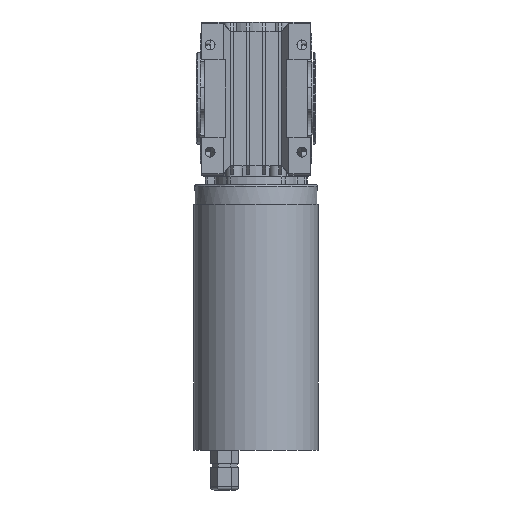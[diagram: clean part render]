
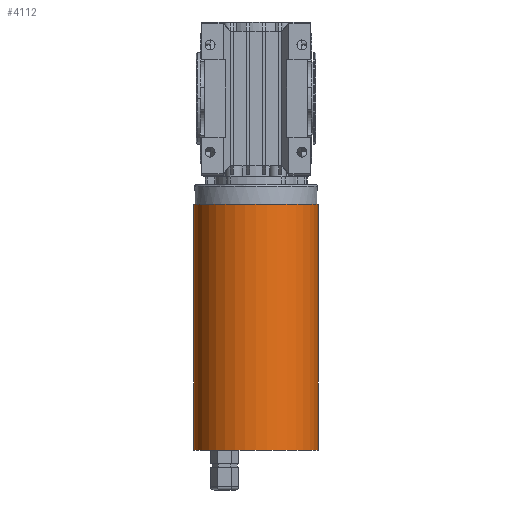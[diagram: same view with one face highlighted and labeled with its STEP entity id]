
A CAD part, front view. The second image highlights one B-rep face of the part: STEP entity #4112.
In plain terms, the highlighted cylindrical face has radius 40.5 mm (diameter 81 mm), a partial arc.
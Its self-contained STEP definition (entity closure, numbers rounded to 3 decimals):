
#1393 = CARTESIAN_POINT ( 'NONE',  ( 40.5, 0., 0. ) ) ;
#1709 = DIRECTION ( 'NONE',  ( 1., 0., 0. ) ) ;
#3196 = EDGE_LOOP ( 'NONE', ( #21421, #19789, #32563, #12948 ) ) ;
#4112 = ADVANCED_FACE ( 'NONE', ( #39095 ), #29452, .T. ) ;
#4191 = VERTEX_POINT ( 'NONE', #12370 ) ;
#4504 = LINE ( 'NONE', #16814, #31994 ) ;
#6363 = CARTESIAN_POINT ( 'NONE',  ( -40.5, 0., 0. ) ) ;
#8185 = CARTESIAN_POINT ( 'NONE',  ( 0., 0., 0. ) ) ;
#8300 = CARTESIAN_POINT ( 'NONE',  ( 0., 0., -160.5 ) ) ;
#10071 = EDGE_CURVE ( 'NONE', #15201, #29137, #35447, .T. ) ;
#11168 = DIRECTION ( 'NONE',  ( 0., 0., -1. ) ) ;
#12370 = CARTESIAN_POINT ( 'NONE',  ( -40.5, 0., 0. ) ) ;
#12948 = ORIENTED_EDGE ( 'NONE', *, *, #10071, .T. ) ;
#13900 = CIRCLE ( 'NONE', #25019, 40.5 ) ;
#14567 = VECTOR ( 'NONE', #27933, 1000. ) ;
#15201 = VERTEX_POINT ( 'NONE', #23692 ) ;
#15775 = EDGE_CURVE ( 'NONE', #18357, #15201, #4504, .T. ) ;
#16814 = CARTESIAN_POINT ( 'NONE',  ( 40.5, 0., 0. ) ) ;
#17328 = CARTESIAN_POINT ( 'NONE',  ( 0., 0., 0. ) ) ;
#17765 = DIRECTION ( 'NONE',  ( 0., 0., 1. ) ) ;
#18284 = AXIS2_PLACEMENT_3D ( 'NONE', #17328, #11168, #1709 ) ;
#18357 = VERTEX_POINT ( 'NONE', #1393 ) ;
#19789 = ORIENTED_EDGE ( 'NONE', *, *, #37142, .F. ) ;
#21421 = ORIENTED_EDGE ( 'NONE', *, *, #35777, .F. ) ;
#23692 = CARTESIAN_POINT ( 'NONE',  ( 40.5, 0., -160.5 ) ) ;
#23988 = DIRECTION ( 'NONE',  ( 1., 0., 0. ) ) ;
#25019 = AXIS2_PLACEMENT_3D ( 'NONE', #8185, #32869, #23988 ) ;
#26254 = AXIS2_PLACEMENT_3D ( 'NONE', #8300, #17765, #39536 ) ;
#27933 = DIRECTION ( 'NONE',  ( 0., 0., -1. ) ) ;
#28557 = LINE ( 'NONE', #6363, #14567 ) ;
#29137 = VERTEX_POINT ( 'NONE', #29736 ) ;
#29452 = CYLINDRICAL_SURFACE ( 'NONE', #18284, 40.5 ) ;
#29736 = CARTESIAN_POINT ( 'NONE',  ( -40.5, 0., -160.5 ) ) ;
#31994 = VECTOR ( 'NONE', #32855, 1000. ) ;
#32563 = ORIENTED_EDGE ( 'NONE', *, *, #15775, .T. ) ;
#32855 = DIRECTION ( 'NONE',  ( 0., 0., -1. ) ) ;
#32869 = DIRECTION ( 'NONE',  ( 0., 0., 1. ) ) ;
#35447 = CIRCLE ( 'NONE', #26254, 40.5 ) ;
#35777 = EDGE_CURVE ( 'NONE', #4191, #29137, #28557, .T. ) ;
#37142 = EDGE_CURVE ( 'NONE', #18357, #4191, #13900, .T. ) ;
#39095 = FACE_OUTER_BOUND ( 'NONE', #3196, .T. ) ;
#39536 = DIRECTION ( 'NONE',  ( 1., 0., 0. ) ) ;
